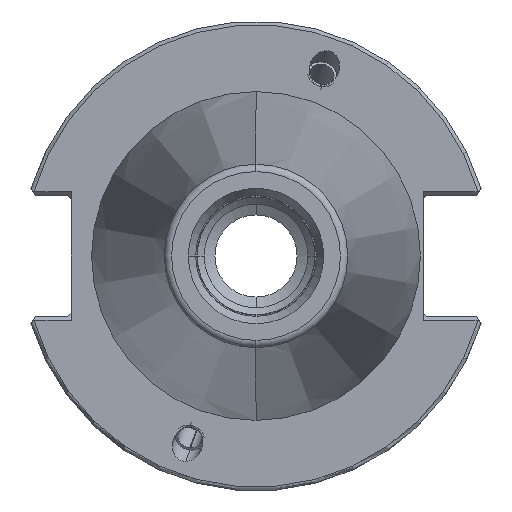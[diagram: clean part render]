
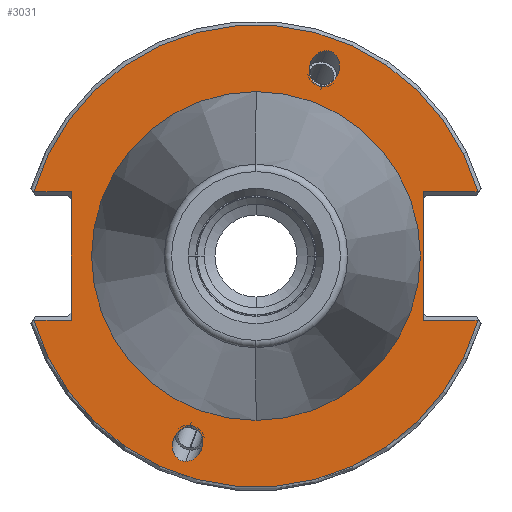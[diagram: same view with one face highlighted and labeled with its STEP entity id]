
A CAD part, left-side view. The second image highlights one B-rep face of the part: STEP entity #3031.
In plain terms, the highlighted planar face has unit normal (-1, 0, 0).
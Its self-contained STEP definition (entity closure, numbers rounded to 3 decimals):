
#116=CARTESIAN_POINT('',(3.175,0.,0.));
#117=DIRECTION('',(1.,0.,0.));
#118=DIRECTION('',(0.,1.,0.));
#119=AXIS2_PLACEMENT_3D('',#116,#117,#118);
#121=CARTESIAN_POINT('',(3.175,0.,0.));
#122=DIRECTION('',(1.,0.,0.));
#123=DIRECTION('',(0.,-1.,0.));
#124=AXIS2_PLACEMENT_3D('',#121,#122,#123);
#126=CARTESIAN_POINT('',(3.175,9.498,-27.766));
#127=CARTESIAN_POINT('',(3.175,9.257,-27.766));
#128=CARTESIAN_POINT('',(3.175,8.727,-27.663));
#129=CARTESIAN_POINT('',(3.175,7.941,-27.117));
#130=CARTESIAN_POINT('',(3.175,7.379,-26.257));
#131=CARTESIAN_POINT('',(3.175,7.151,-25.372));
#132=CARTESIAN_POINT('',(3.175,7.185,-24.486));
#133=CARTESIAN_POINT('',(3.175,7.557,-23.627));
#134=CARTESIAN_POINT('',(3.175,8.223,-23.08));
#135=CARTESIAN_POINT('',(3.175,8.731,-22.978));
#136=CARTESIAN_POINT('',(3.175,8.971,-22.978));
#138=CARTESIAN_POINT('',(3.175,8.971,-22.978));
#139=CARTESIAN_POINT('',(3.175,9.212,-22.978));
#140=CARTESIAN_POINT('',(3.175,9.742,-23.08));
#141=CARTESIAN_POINT('',(3.175,10.528,-23.627));
#142=CARTESIAN_POINT('',(3.175,11.09,-24.486));
#143=CARTESIAN_POINT('',(3.175,11.318,-25.372));
#144=CARTESIAN_POINT('',(3.175,11.284,-26.257));
#145=CARTESIAN_POINT('',(3.175,10.912,-27.117));
#146=CARTESIAN_POINT('',(3.175,10.246,-27.663));
#147=CARTESIAN_POINT('',(3.175,9.738,-27.766));
#148=CARTESIAN_POINT('',(3.175,9.498,-27.766));
#150=CARTESIAN_POINT('',(3.175,-9.498,27.766));
#151=CARTESIAN_POINT('',(3.175,-9.257,27.766));
#152=CARTESIAN_POINT('',(3.175,-8.727,27.663));
#153=CARTESIAN_POINT('',(3.175,-7.941,27.117));
#154=CARTESIAN_POINT('',(3.175,-7.379,26.257));
#155=CARTESIAN_POINT('',(3.175,-7.151,25.372));
#156=CARTESIAN_POINT('',(3.175,-7.185,24.486));
#157=CARTESIAN_POINT('',(3.175,-7.557,23.627));
#158=CARTESIAN_POINT('',(3.175,-8.223,23.08));
#159=CARTESIAN_POINT('',(3.175,-8.731,22.978));
#160=CARTESIAN_POINT('',(3.175,-8.971,22.978));
#162=CARTESIAN_POINT('',(3.175,-8.971,22.978));
#163=CARTESIAN_POINT('',(3.175,-9.212,22.978));
#164=CARTESIAN_POINT('',(3.175,-9.742,23.08));
#165=CARTESIAN_POINT('',(3.175,-10.528,23.627));
#166=CARTESIAN_POINT('',(3.175,-11.09,24.486));
#167=CARTESIAN_POINT('',(3.175,-11.318,25.372));
#168=CARTESIAN_POINT('',(3.175,-11.284,26.257));
#169=CARTESIAN_POINT('',(3.175,-10.912,27.117));
#170=CARTESIAN_POINT('',(3.175,-10.246,27.663));
#171=CARTESIAN_POINT('',(3.175,-9.738,27.766));
#172=CARTESIAN_POINT('',(3.175,-9.498,27.766));
#174=DIRECTION('',(0.,-1.,0.));
#175=VECTOR('',#174,5.017);
#176=CARTESIAN_POINT('',(3.175,30.017,8.69));
#177=LINE('',#176,#175);
#178=DIRECTION('',(0.,-1.,0.));
#179=VECTOR('',#178,7.417);
#180=CARTESIAN_POINT('',(3.175,-22.6,8.69));
#181=LINE('',#180,#179);
#182=DIRECTION('',(0.,1.,0.));
#183=VECTOR('',#182,7.417);
#184=CARTESIAN_POINT('',(3.175,-30.017,-8.69));
#185=LINE('',#184,#183);
#186=DIRECTION('',(0.,1.,0.));
#187=VECTOR('',#186,5.017);
#188=CARTESIAN_POINT('',(3.175,25.,-8.69));
#189=LINE('',#188,#187);
#641=DIRECTION('',(0.,0.,-1.));
#642=VECTOR('',#641,17.38);
#643=CARTESIAN_POINT('',(3.175,25.,8.69));
#644=LINE('',#643,#642);
#783=DIRECTION('',(0.,0.,1.));
#784=VECTOR('',#783,17.38);
#785=CARTESIAN_POINT('',(3.175,-22.6,-8.69));
#786=LINE('',#785,#784);
#863=CARTESIAN_POINT('',(3.175,0.,0.));
#864=DIRECTION('',(-1.,0.,0.));
#865=DIRECTION('',(0.,-0.961,0.278));
#866=AXIS2_PLACEMENT_3D('',#863,#864,#865);
#937=CARTESIAN_POINT('',(3.175,0.,0.));
#938=DIRECTION('',(-1.,0.,0.));
#939=DIRECTION('',(0.,0.961,-0.278));
#940=AXIS2_PLACEMENT_3D('',#937,#938,#939);
#2460=CARTESIAN_POINT('',(3.175,22.2,0.));
#2461=CARTESIAN_POINT('',(3.175,-22.2,0.));
#2462=VERTEX_POINT('',#2460);
#2463=VERTEX_POINT('',#2461);
#2526=VERTEX_POINT('',#126);
#2527=VERTEX_POINT('',#136);
#2562=CARTESIAN_POINT('',(3.175,30.017,8.69));
#2563=CARTESIAN_POINT('',(3.175,25.,8.69));
#2564=VERTEX_POINT('',#2562);
#2565=VERTEX_POINT('',#2563);
#2570=CARTESIAN_POINT('',(3.175,25.,-8.69));
#2571=CARTESIAN_POINT('',(3.175,30.017,-8.69));
#2572=VERTEX_POINT('',#2570);
#2573=VERTEX_POINT('',#2571);
#2578=CARTESIAN_POINT('',(3.175,-22.6,8.69));
#2579=CARTESIAN_POINT('',(3.175,-30.017,8.69));
#2580=VERTEX_POINT('',#2578);
#2581=VERTEX_POINT('',#2579);
#2586=CARTESIAN_POINT('',(3.175,-30.017,
-8.69));
#2587=CARTESIAN_POINT('',(3.175,-22.6,-8.69));
#2588=VERTEX_POINT('',#2586);
#2589=VERTEX_POINT('',#2587);
#2624=CARTESIAN_POINT('',(3.175,-9.498,27.766));
#2625=VERTEX_POINT('',#2624);
#2626=CARTESIAN_POINT('',(3.175,-8.971,22.978));
#2627=VERTEX_POINT('',#2626);
#2992=CARTESIAN_POINT('',(3.175,0.,0.));
#2993=DIRECTION('',(1.,0.,0.));
#2994=DIRECTION('',(0.,0.,1.));
#2995=AXIS2_PLACEMENT_3D('',#2992,#2993,#2994);
#2996=PLANE('',#2995);
#2998=ORIENTED_EDGE('',*,*,#2997,.F.);
#3000=ORIENTED_EDGE('',*,*,#2999,.F.);
#3002=ORIENTED_EDGE('',*,*,#3001,.F.);
#3004=ORIENTED_EDGE('',*,*,#3003,.F.);
#3006=ORIENTED_EDGE('',*,*,#3005,.F.);
#3008=ORIENTED_EDGE('',*,*,#3007,.F.);
#3010=ORIENTED_EDGE('',*,*,#3009,.F.);
#3012=ORIENTED_EDGE('',*,*,#3011,.F.);
#3013=EDGE_LOOP('',(#2998,#3000,#3002,#3004,#3006,#3008,#3010,#3012));
#3014=FACE_OUTER_BOUND('',#3013,.F.);
#3016=ORIENTED_EDGE('',*,*,#3015,.T.);
#3018=ORIENTED_EDGE('',*,*,#3017,.T.);
#3019=EDGE_LOOP('',(#3016,#3018));
#3020=FACE_BOUND('',#3019,.F.);
#3022=ORIENTED_EDGE('',*,*,#3021,.T.);
#3024=ORIENTED_EDGE('',*,*,#3023,.T.);
#3025=EDGE_LOOP('',(#3022,#3024));
#3026=FACE_BOUND('',#3025,.F.);
#3027=ORIENTED_EDGE('',*,*,#2945,.F.);
#3028=ORIENTED_EDGE('',*,*,#2960,.F.);
#3029=EDGE_LOOP('',(#3027,#3028));
#3030=FACE_BOUND('',#3029,.F.);
#3031=ADVANCED_FACE('',(#3014,#3020,#3026,#3030),#2996,.F.);
#120=CIRCLE('',#119,22.2);
#125=CIRCLE('',#124,22.2);
#137=B_SPLINE_CURVE_WITH_KNOTS('',3,(#126,#127,#128,#129,#130,#131,#132,#133,
#134,#135,#136),.UNSPECIFIED.,.F.,.F.,(4,1,1,1,1,1,1,1,4),(0.,0.125,0.25,
0.375,0.5,0.625,0.75,0.875,1.),.UNSPECIFIED.);
#149=B_SPLINE_CURVE_WITH_KNOTS('',3,(#138,#139,#140,#141,#142,#143,#144,#145,
#146,#147,#148),.UNSPECIFIED.,.F.,.F.,(4,1,1,1,1,1,1,1,4),(0.,0.125,0.25,
0.375,0.5,0.625,0.75,0.875,1.),.UNSPECIFIED.);
#161=B_SPLINE_CURVE_WITH_KNOTS('',3,(#150,#151,#152,#153,#154,#155,#156,#157,
#158,#159,#160),.UNSPECIFIED.,.F.,.F.,(4,1,1,1,1,1,1,1,4),(0.,0.125,0.25,
0.375,0.5,0.625,0.75,0.875,1.),.UNSPECIFIED.);
#173=B_SPLINE_CURVE_WITH_KNOTS('',3,(#162,#163,#164,#165,#166,#167,#168,#169,
#170,#171,#172),.UNSPECIFIED.,.F.,.F.,(4,1,1,1,1,1,1,1,4),(0.,0.125,0.25,
0.375,0.5,0.625,0.75,0.875,1.),.UNSPECIFIED.);
#867=CIRCLE('',#866,31.25);
#941=CIRCLE('',#940,31.25);
#2945=EDGE_CURVE('',#2462,#2463,#120,.T.);
#2960=EDGE_CURVE('',#2463,#2462,#125,.T.);
#2997=EDGE_CURVE('',#2564,#2565,#177,.T.);
#2999=EDGE_CURVE('',#2581,#2564,#867,.T.);
#3001=EDGE_CURVE('',#2580,#2581,#181,.T.);
#3003=EDGE_CURVE('',#2589,#2580,#786,.T.);
#3005=EDGE_CURVE('',#2588,#2589,#185,.T.);
#3007=EDGE_CURVE('',#2573,#2588,#941,.T.);
#3009=EDGE_CURVE('',#2572,#2573,#189,.T.);
#3011=EDGE_CURVE('',#2565,#2572,#644,.T.);
#3015=EDGE_CURVE('',#2526,#2527,#137,.T.);
#3017=EDGE_CURVE('',#2527,#2526,#149,.T.);
#3021=EDGE_CURVE('',#2625,#2627,#161,.T.);
#3023=EDGE_CURVE('',#2627,#2625,#173,.T.);
